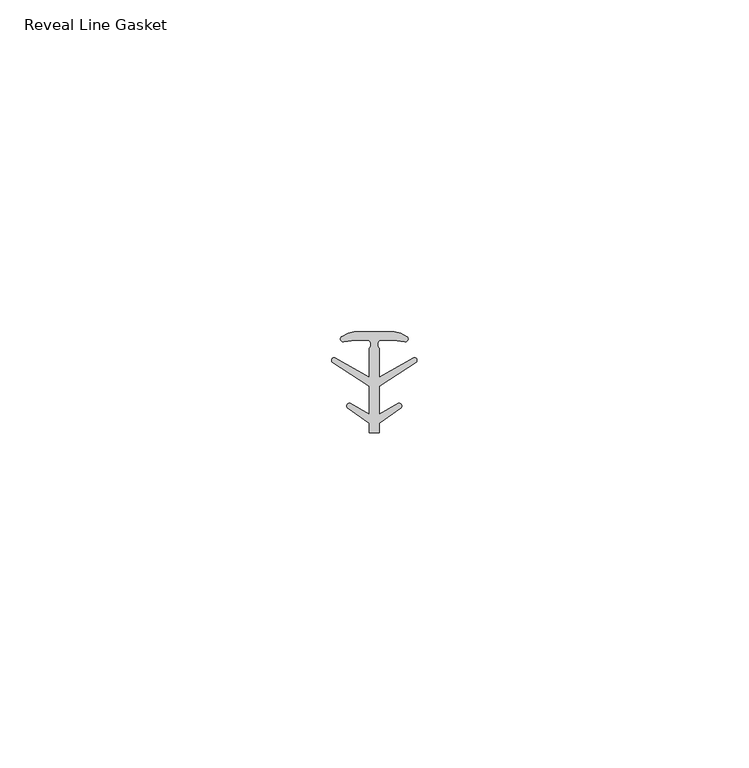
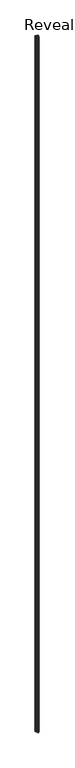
"""IFC4 building model written with IfcOpenShell, lengths in millimetres: proxy geometry, Accessories-Teknion-FHGR-AI_Healthcare-Reveal_Line_Gasket-R2021 : Reveal Line Gasket."""

from ifc_helpers import new_model, si_unit, point, frame, frame_2d, origin, place, context, project, spatial, polyline, circle_curve, trimmed, segment, composite_curve, outline, extrude, source, transform, mapped, element, save


def reveal_line_gasket_b8268798(model_context):
    return source(origin(), model_context, "Body", "SweptSolid", [
        extrude(outline(composite_curve([segment(polyline([(2.999107, 7.6326998), (3.9545998, 7.4091917), (4.8875754, 6.8813059)]), True, "CONTINUOUS"), segment(trimmed(circle_curve(frame_2d((4.6855864, 6.5243141)), 0.4101739), [point((4.8875754, 6.8813059))], [point((4.5932418, 6.1246704))], False, "CARTESIAN"), True, "CONTINUOUS"), segment(polyline([(4.5932418, 6.1246704), (2.8970156, 6.3626997), (0.8645598, 6.3626997)]), True, "CONTINUOUS"), segment(trimmed(circle_curve(frame_2d((1.2810328, 5.6959605)), 0.786124), [point((0.8645598, 6.3626997))], [point((0.7769821, 5.0926996))], True, "CARTESIAN"), True, "CONTINUOUS"), segment(polyline([(0.7769821, 5.0926996), (0.7769821, 0.7492996), (5.9386365, 3.7293824)]), True, "CONTINUOUS"), segment(trimmed(circle_curve(frame_2d((6.0040832, 3.3132479)), 0.4212495), [point((5.9386365, 3.7293824))], [point((6.3317429, 3.0485022))], False, "CARTESIAN"), True, "CONTINUOUS"), segment(polyline([(6.3317429, 3.0485022), (0.7769821, -0.5742594), (0.7769821, -4.8262978), (3.6526367, -3.1660374)]), True, "CONTINUOUS"), segment(trimmed(circle_curve(frame_2d((3.7109925, -3.5978728)), 0.4357605), [point((3.6526367, -3.1660374))], [point((4.0557951, -3.864328))], False, "CARTESIAN"), True, "CONTINUOUS"), segment(polyline([(4.0557951, -3.864328), (0.7769821, -6.1944059), (0.7769821, -7.6326998), (-0.778768, -7.6326998), (-0.778768, -6.1944059), (-4.0575811, -3.864328)]), True, "CONTINUOUS"), segment(trimmed(circle_curve(frame_2d((-3.7127785, -3.5978728)), 0.4357605), [point((-4.0575811, -3.864328))], [point((-3.6544226, -3.1660374))], False, "CARTESIAN"), True, "CONTINUOUS"), segment(polyline([(-3.6544226, -3.1660374), (-0.778768, -4.8262978), (-0.778768, -0.5742594), (-6.3335288, 3.0485022)]), True, "CONTINUOUS"), segment(trimmed(circle_curve(frame_2d((-6.0058691, 3.3132479)), 0.4212495), [point((-6.3335288, 3.0485022))], [point((-5.9404224, 3.7293824))], False, "CARTESIAN"), True, "CONTINUOUS"), segment(polyline([(-5.9404224, 3.7293824), (-0.778768, 0.7492996), (-0.778768, 5.0926996)]), True, "CONTINUOUS"), segment(trimmed(circle_curve(frame_2d((-1.2828188, 5.6959605)), 0.786124), [point((-0.778768, 5.0926996))], [point((-0.8663457, 6.3626997))], True, "CARTESIAN"), True, "CONTINUOUS"), segment(polyline([(-0.8663457, 6.3626997), (-2.8988015, 6.3626997), (-4.5950277, 6.1246704)]), True, "CONTINUOUS"), segment(trimmed(circle_curve(frame_2d((-4.6873723, 6.5243141)), 0.4101739), [point((-4.5950277, 6.1246704))], [point((-4.8893614, 6.8813059))], False, "CARTESIAN"), True, "CONTINUOUS"), segment(polyline([(-4.8893614, 6.8813059), (-3.9563857, 7.4091917), (-3.000893, 7.6326998), (2.999107, 7.6326998)]), True, "CONTINUOUS")], self_intersect=False)), frame((0.0, 0.0, 84.836), z_axis=(0.0, 0.0, 1.0), x_axis=(1.0, 0.0, 0.0)), (0.0, 0.0, 1.0), 2979.039),
    ])


if __name__ == "__main__":
    model = new_model("IFC4")
    model_context = context("Model", 3, world=origin())
    ifc_project = project(units=[si_unit("LENGTHUNIT", "METRE", prefix="MILLI")], contexts=[model_context])
    site = spatial("IfcSite", under=ifc_project)
    building = spatial("IfcBuilding", under=site)
    placement = place(None, origin())
    reveal_line_gasket_shape = reveal_line_gasket_b8268798(model_context)
    element("IfcBuildingElementProxy", 1, Name="Accessories-Teknion-FHGR-AI_Healthcare-Reveal_Line_Gasket-R2021 : Reveal Line Gasket", ObjectType="Accessories-Teknion-FHGR-AI_Healthcare-Reveal_Line_Gasket-R2021 : Reveal Line Gasket", at=placement, inside=building, context=model_context, shape_type="MappedRepresentation", body=[
        mapped(reveal_line_gasket_shape, transform((0.0, 0.0, 0.0), x_axis=(1.0, 0.0, 0.0), y_axis=(0.0, 1.0, 0.0), z_axis=(0.0, 0.0, 1.0))),
    ])
    save(model, "model.ifc")
